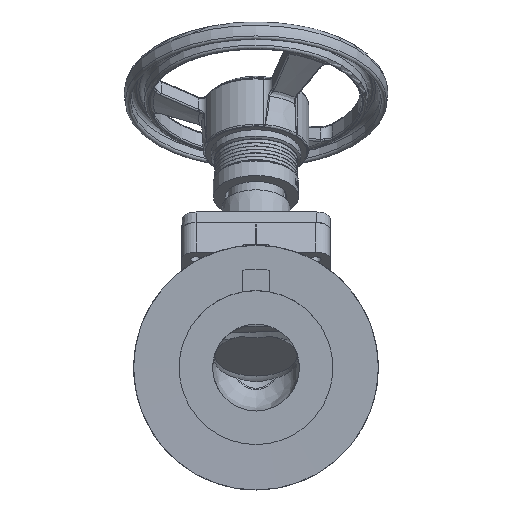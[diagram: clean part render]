
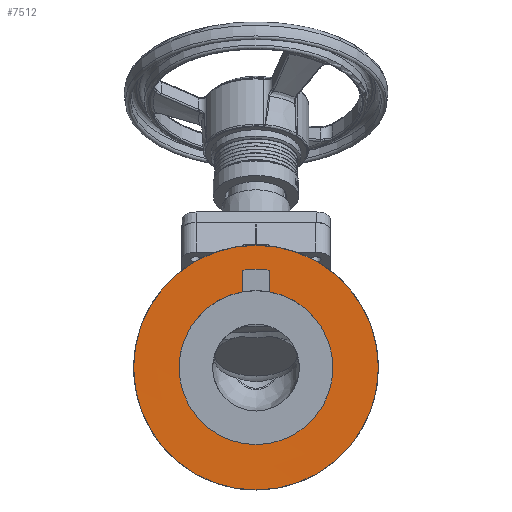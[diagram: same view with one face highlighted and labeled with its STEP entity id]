
A CAD part, left-side view. The second image highlights one B-rep face of the part: STEP entity #7512.
In plain terms, the highlighted conical face has half-angle 89.785 degrees and reference radius 75.736 mm.
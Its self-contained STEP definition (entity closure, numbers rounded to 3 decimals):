
#7374=CARTESIAN_POINT('',(-287.,-10.0,74.087));
#7375=VERTEX_POINT('',#7374);
#7382=CARTESIAN_POINT('',(-287.,10.,74.087));
#7383=VERTEX_POINT('',#7382);
#7384=CARTESIAN_POINT('',(-287.,0.0,0.0));
#7385=DIRECTION('',(1.0,0.0,0.0));
#7386=DIRECTION('',(0.0,-1.0,0.0));
#7387=AXIS2_PLACEMENT_3D('',#7384,#7385,#7386);
#7388=CIRCLE('',#7387,74.758);
#7389=EDGE_CURVE('',#7383,#7375,#7388,.T.);
#7417=CARTESIAN_POINT('',(-286.939,-10.0,57.605));
#7418=VERTEX_POINT('',#7417);
#7425=CARTESIAN_POINT('',(-287.,-10.0,74.087));
#7426=CARTESIAN_POINT('',(-286.966,-10.0,64.838));
#7427=CARTESIAN_POINT('',(-286.939,-10.0,57.605));
#7435=(BOUNDED_CURVE()B_SPLINE_CURVE(2,(#7425,#7426,#7427),.UNSPECIFIED.,.F.,.U.)B_SPLINE_CURVE_WITH_KNOTS((3,3),(0.25,0.589),.UNSPECIFIED.)CURVE()GEOMETRIC_REPRESENTATION_ITEM()RATIONAL_B_SPLINE_CURVE((1.222,1.37,1.512))REPRESENTATION_ITEM(''));
#7436=EDGE_CURVE('',#7375,#7418,#7435,.T.);
#7447=CARTESIAN_POINT('',(-286.939,10.,57.605));
#7448=VERTEX_POINT('',#7447);
#7456=CARTESIAN_POINT('',(-286.939,10.,57.605));
#7457=CARTESIAN_POINT('',(-286.966,10.,64.838));
#7458=CARTESIAN_POINT('',(-287.,10.,74.087));
#7466=(BOUNDED_CURVE()B_SPLINE_CURVE(2,(#7456,#7457,#7458),.UNSPECIFIED.,.F.,.U.)B_SPLINE_CURVE_WITH_KNOTS((3,3),(18.012,18.351),.UNSPECIFIED.)CURVE()GEOMETRIC_REPRESENTATION_ITEM()RATIONAL_B_SPLINE_CURVE((1.512,1.37,1.222))REPRESENTATION_ITEM(''));
#7467=EDGE_CURVE('',#7448,#7383,#7466,.T.);
#7484=CARTESIAN_POINT('',(-287.004,0.0,0.0));
#7485=DIRECTION('',(-1.0,0.0,0.0));
#7486=DIRECTION('',(0.0,-1.0,0.0));
#7487=AXIS2_PLACEMENT_3D('',#7484,#7485,#7486);
#7488=CONICAL_SURFACE('',#7487,75.736,89.785);
#7489=CARTESIAN_POINT('',(-287.069,-93.005,0.0));
#7490=VERTEX_POINT('',#7489);
#7491=CARTESIAN_POINT('',(-287.069,0.0,0.0));
#7492=DIRECTION('',(-1.0,0.0,0.0));
#7493=DIRECTION('',(0.0,-1.0,0.0));
#7494=AXIS2_PLACEMENT_3D('',#7491,#7492,#7493);
#7495=CIRCLE('',#7494,93.005);
#7496=EDGE_CURVE('',#7490,#7490,#7495,.T.);
#7497=ORIENTED_EDGE('',*,*,#7496,.T.);
#7498=EDGE_LOOP('',(#7497));
#7499=FACE_OUTER_BOUND('',#7498,.T.);
#7500=ORIENTED_EDGE('',*,*,#7467,.T.);
#7501=ORIENTED_EDGE('',*,*,#7389,.T.);
#7502=ORIENTED_EDGE('',*,*,#7436,.T.);
#7503=CARTESIAN_POINT('',(-286.939,0.0,0.0));
#7504=DIRECTION('',(-1.0,0.0,0.0));
#7505=DIRECTION('',(0.0,-1.0,0.0));
#7506=AXIS2_PLACEMENT_3D('',#7503,#7504,#7505);
#7507=CIRCLE('',#7506,58.467);
#7508=EDGE_CURVE('',#7448,#7418,#7507,.T.);
#7509=ORIENTED_EDGE('',*,*,#7508,.F.);
#7510=EDGE_LOOP('',(#7500,#7501,#7502,#7509));
#7511=FACE_BOUND('',#7510,.T.);
#7512=ADVANCED_FACE('',(#7499,#7511),#7488,.F.);
